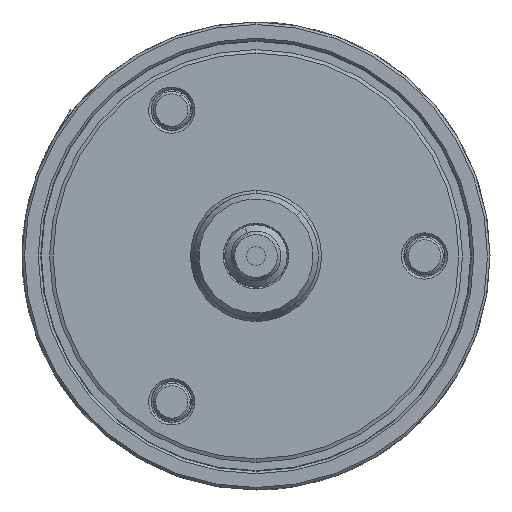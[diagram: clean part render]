
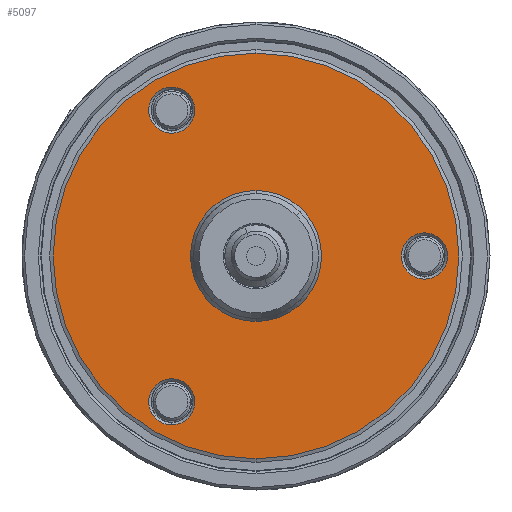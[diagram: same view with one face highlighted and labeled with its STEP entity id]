
A CAD part, left-side view. The second image highlights one B-rep face of the part: STEP entity #5097.
In plain terms, the highlighted planar face has unit normal (-1, 0, 0).
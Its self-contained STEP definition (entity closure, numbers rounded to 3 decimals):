
#487 = CARTESIAN_POINT ( 'NONE',  ( -38., -27., -3.7 ) ) ;
#640 = EDGE_CURVE ( 'NONE', #22574, #23969, #2240, .T. ) ;
#1607 = CARTESIAN_POINT ( 'NONE',  ( -38., 13.5, -27.083 ) ) ;
#2240 = CIRCLE ( 'NONE', #4456, 3.7 ) ;
#2545 = AXIS2_PLACEMENT_3D ( 'NONE', #19281, #19235, #19204 ) ;
#2997 = EDGE_LOOP ( 'NONE', ( #31673, #21164 ) ) ;
#3051 = VERTEX_POINT ( 'NONE', #1607 ) ;
#3444 = CIRCLE ( 'NONE', #22453, 3.7 ) ;
#3794 = CARTESIAN_POINT ( 'NONE',  ( -38., -27., 3.7 ) ) ;
#4397 = CIRCLE ( 'NONE', #15551, 3.7 ) ;
#4456 = AXIS2_PLACEMENT_3D ( 'NONE', #12299, #12244, #12209 ) ;
#4528 = CIRCLE ( 'NONE', #15448, 3.7 ) ;
#5097 = ADVANCED_FACE ( 'NONE', ( #12071, #27014, #20887, #10432, #16354 ), #14109, .F. ) ;
#5181 = EDGE_CURVE ( 'NONE', #6551, #27921, #4397, .T. ) ;
#5691 = DIRECTION ( 'NONE',  ( 0., 0., -1. ) ) ;
#5756 = DIRECTION ( 'NONE',  ( -1., 0., 0. ) ) ;
#5798 = CARTESIAN_POINT ( 'NONE',  ( -38., 0., 0. ) ) ;
#5952 = CARTESIAN_POINT ( 'NONE',  ( -38., 0., -10.5 ) ) ;
#6355 = ORIENTED_EDGE ( 'NONE', *, *, #640, .T. ) ;
#6489 = CARTESIAN_POINT ( 'NONE',  ( -38., -32.5, 0. ) ) ;
#6551 = VERTEX_POINT ( 'NONE', #3794 ) ;
#7289 = EDGE_LOOP ( 'NONE', ( #21322, #13251 ) ) ;
#7905 = CIRCLE ( 'NONE', #9178, 3.7 ) ;
#8058 = CIRCLE ( 'NONE', #28998, 3.7 ) ;
#8772 = VERTEX_POINT ( 'NONE', #23880 ) ;
#8780 = CIRCLE ( 'NONE', #31028, 10.5 ) ;
#9178 = AXIS2_PLACEMENT_3D ( 'NONE', #17761, #17756, #17723 ) ;
#9184 = VERTEX_POINT ( 'NONE', #26845 ) ;
#9211 = VERTEX_POINT ( 'NONE', #26734 ) ;
#9530 = CARTESIAN_POINT ( 'NONE',  ( -38., 0., 32.5 ) ) ;
#10412 = ORIENTED_EDGE ( 'NONE', *, *, #5181, .T. ) ;
#10432 = FACE_BOUND ( 'NONE', #7289, .T. ) ;
#10466 = AXIS2_PLACEMENT_3D ( 'NONE', #6489, #32620, #31512 ) ;
#11465 = EDGE_CURVE ( 'NONE', #23969, #22574, #3444, .T. ) ;
#12071 = FACE_BOUND ( 'NONE', #23275, .T. ) ;
#12209 = DIRECTION ( 'NONE',  ( 0., 0., -1. ) ) ;
#12244 = DIRECTION ( 'NONE',  ( 1., 0., 0. ) ) ;
#12299 = CARTESIAN_POINT ( 'NONE',  ( -38., 13.5, 23.383 ) ) ;
#13251 = ORIENTED_EDGE ( 'NONE', *, *, #19623, .F. ) ;
#14109 = PLANE ( 'NONE',  #10466 ) ;
#15448 = AXIS2_PLACEMENT_3D ( 'NONE', #17341, #17312, #17266 ) ;
#15551 = AXIS2_PLACEMENT_3D ( 'NONE', #28662, #29056, #18276 ) ;
#16354 = FACE_OUTER_BOUND ( 'NONE', #2997, .T. ) ;
#16576 = EDGE_CURVE ( 'NONE', #30576, #9211, #8780, .T. ) ;
#16728 = EDGE_CURVE ( 'NONE', #3051, #9184, #7905, .T. ) ;
#16947 = EDGE_LOOP ( 'NONE', ( #20733, #6355 ) ) ;
#17086 = ORIENTED_EDGE ( 'NONE', *, *, #27070, .T. ) ;
#17112 = CIRCLE ( 'NONE', #28225, 10.5 ) ;
#17266 = DIRECTION ( 'NONE',  ( 0., 0., -1. ) ) ;
#17271 = VERTEX_POINT ( 'NONE', #9530 ) ;
#17289 = AXIS2_PLACEMENT_3D ( 'NONE', #19749, #18648, #19560 ) ;
#17312 = DIRECTION ( 'NONE',  ( 1., 0., 0. ) ) ;
#17341 = CARTESIAN_POINT ( 'NONE',  ( -38., 13.5, -23.383 ) ) ;
#17723 = DIRECTION ( 'NONE',  ( 0., 0., -1. ) ) ;
#17756 = DIRECTION ( 'NONE',  ( 1., 0., 0. ) ) ;
#17761 = CARTESIAN_POINT ( 'NONE',  ( -38., 13.5, -23.383 ) ) ;
#18276 = DIRECTION ( 'NONE',  ( 0., 0., -1. ) ) ;
#18648 = DIRECTION ( 'NONE',  ( 1., 0., 0. ) ) ;
#19204 = DIRECTION ( 'NONE',  ( 0., 0., -1. ) ) ;
#19235 = DIRECTION ( 'NONE',  ( 1., 0., 0. ) ) ;
#19281 = CARTESIAN_POINT ( 'NONE',  ( -38., 0., 0. ) ) ;
#19560 = DIRECTION ( 'NONE',  ( 0., 0., -1. ) ) ;
#19623 = EDGE_CURVE ( 'NONE', #9211, #30576, #17112, .T. ) ;
#19749 = CARTESIAN_POINT ( 'NONE',  ( -38., 0., 0. ) ) ;
#20320 = DIRECTION ( 'NONE',  ( 0., 0., -1. ) ) ;
#20357 = DIRECTION ( 'NONE',  ( -1., 0., 0. ) ) ;
#20361 = CARTESIAN_POINT ( 'NONE',  ( -38., 0., 0. ) ) ;
#20733 = ORIENTED_EDGE ( 'NONE', *, *, #11465, .T. ) ;
#20887 = FACE_BOUND ( 'NONE', #28929, .T. ) ;
#21164 = ORIENTED_EDGE ( 'NONE', *, *, #29445, .F. ) ;
#21322 = ORIENTED_EDGE ( 'NONE', *, *, #16576, .F. ) ;
#22453 = AXIS2_PLACEMENT_3D ( 'NONE', #28759, #28729, #28722 ) ;
#22574 = VERTEX_POINT ( 'NONE', #27558 ) ;
#23275 = EDGE_LOOP ( 'NONE', ( #10412, #24351 ) ) ;
#23880 = CARTESIAN_POINT ( 'NONE',  ( -38., 0., -32.5 ) ) ;
#23969 = VERTEX_POINT ( 'NONE', #29770 ) ;
#24351 = ORIENTED_EDGE ( 'NONE', *, *, #25748, .T. ) ;
#25504 = CIRCLE ( 'NONE', #17289, 32.5 ) ;
#25748 = EDGE_CURVE ( 'NONE', #27921, #6551, #8058, .T. ) ;
#26258 = CIRCLE ( 'NONE', #2545, 32.5 ) ;
#26734 = CARTESIAN_POINT ( 'NONE',  ( -38., 0., 10.5 ) ) ;
#26827 = DIRECTION ( 'NONE',  ( 0., 0., -1. ) ) ;
#26845 = CARTESIAN_POINT ( 'NONE',  ( -38., 13.5, -19.683 ) ) ;
#26871 = DIRECTION ( 'NONE',  ( 1., 0., 0. ) ) ;
#26922 = CARTESIAN_POINT ( 'NONE',  ( -38., -27., 0. ) ) ;
#27014 = FACE_BOUND ( 'NONE', #16947, .T. ) ;
#27070 = EDGE_CURVE ( 'NONE', #9184, #3051, #4528, .T. ) ;
#27558 = CARTESIAN_POINT ( 'NONE',  ( -38., 13.5, 19.683 ) ) ;
#27921 = VERTEX_POINT ( 'NONE', #487 ) ;
#28225 = AXIS2_PLACEMENT_3D ( 'NONE', #5798, #5756, #5691 ) ;
#28662 = CARTESIAN_POINT ( 'NONE',  ( -38., -27., 0. ) ) ;
#28722 = DIRECTION ( 'NONE',  ( 0., 0., -1. ) ) ;
#28729 = DIRECTION ( 'NONE',  ( 1., 0., 0. ) ) ;
#28759 = CARTESIAN_POINT ( 'NONE',  ( -38., 13.5, 23.383 ) ) ;
#28929 = EDGE_LOOP ( 'NONE', ( #17086, #30726 ) ) ;
#28998 = AXIS2_PLACEMENT_3D ( 'NONE', #26922, #26871, #26827 ) ;
#29056 = DIRECTION ( 'NONE',  ( 1., 0., 0. ) ) ;
#29445 = EDGE_CURVE ( 'NONE', #17271, #8772, #25504, .T. ) ;
#29770 = CARTESIAN_POINT ( 'NONE',  ( -38., 13.5, 27.083 ) ) ;
#30576 = VERTEX_POINT ( 'NONE', #5952 ) ;
#30726 = ORIENTED_EDGE ( 'NONE', *, *, #16728, .T. ) ;
#31028 = AXIS2_PLACEMENT_3D ( 'NONE', #20361, #20357, #20320 ) ;
#31293 = EDGE_CURVE ( 'NONE', #8772, #17271, #26258, .T. ) ;
#31512 = DIRECTION ( 'NONE',  ( 0., 0., -1. ) ) ;
#31673 = ORIENTED_EDGE ( 'NONE', *, *, #31293, .F. ) ;
#32620 = DIRECTION ( 'NONE',  ( 1., 0., 0. ) ) ;
